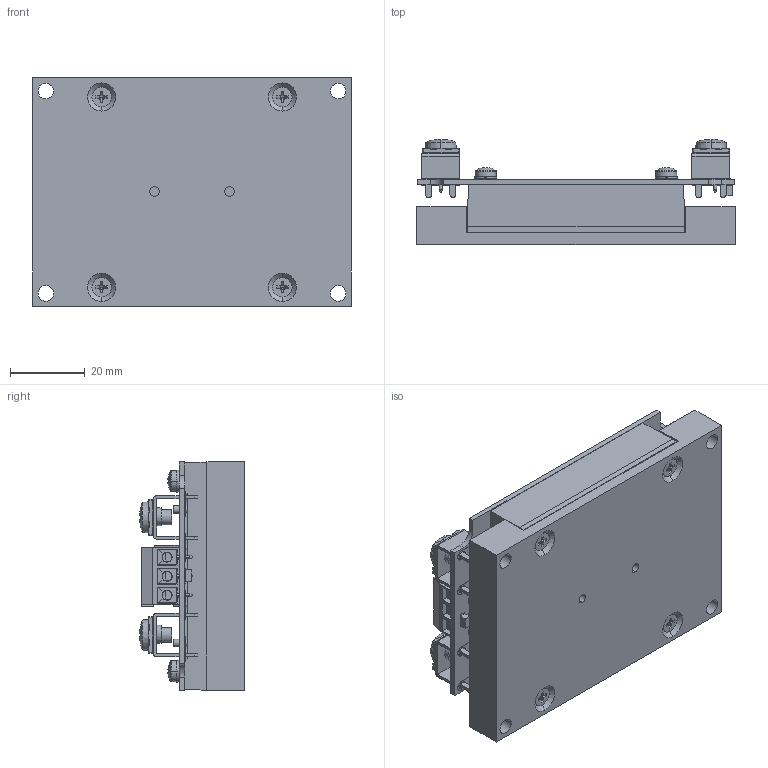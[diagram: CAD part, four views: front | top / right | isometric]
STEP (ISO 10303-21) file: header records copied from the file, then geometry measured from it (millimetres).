
FILE_DESCRIPTION (( 'STEP AP214' ), '1' );
FILE_NAME ('TEP 75 72 CM.STEP', '2022-05-10T08:56:23', ( '' ), ( '' ), 'SwSTEP 2.0', 'SolidWorks 2016', '' );
FILE_SCHEMA (( 'AUTOMOTIVE_DESIGN' ));
Length unit declared in the file: millimetre
Products named in the file (1): TEP 75 72 CM
Bounding box: 85 x 28.01 x 61.1 mm (x, y, z)
Volume: 82109.6 mm3; surface area: 50294.1 mm2
Topology: 32 solids, 32 shells, 1954 faces, 5059 edges, 3260 vertices
Faces by surface type: plane 1158, cylinder 556, cone 177, bspline 63
Entity records: 74468 total; most frequent: CARTESIAN_POINT 12940, ORIENTED_EDGE 10070, DIRECTION 9922, EDGE_CURVE 5035, AXIS2_PLACEMENT_3D 3408, VERTEX_POINT 3260, VECTOR 3106, LINE 3106
